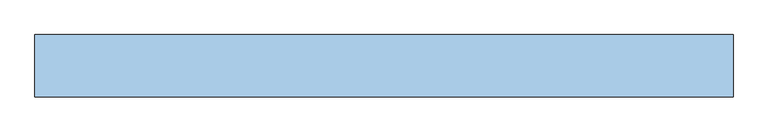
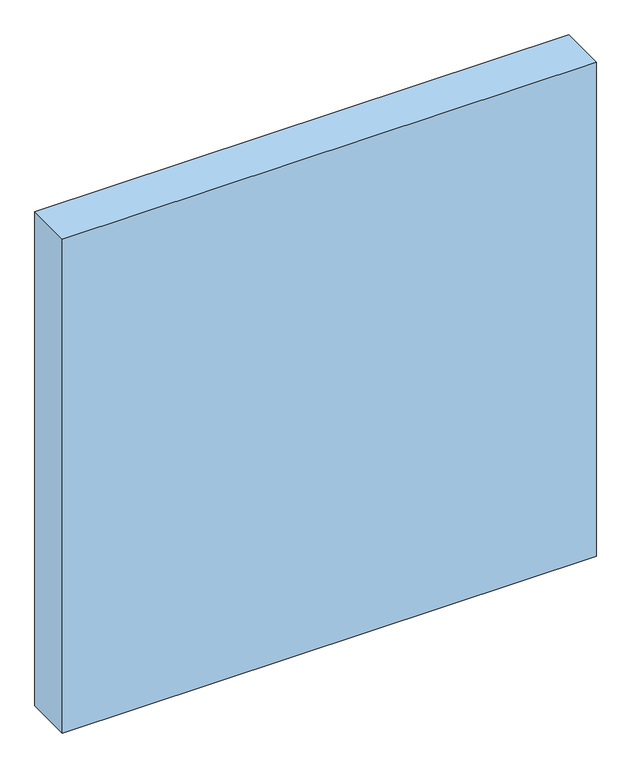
"""IFC4 building model written with IfcOpenShell, lengths in millimetres: window geometry, Dr_Проем-Четверти_об модель : ОК."""

from ifc_helpers import new_model, si_unit, frame, origin, place, context, project, spatial, polyline, outline, extrude, source, transform, mapped, element, save


def window_6c497e1b(model_context):
    return source(origin(), model_context, "Body", "SweptSolid", [
        extrude(outline(polyline([(1255.0, 100.0), (1255.0, -100.0), (-985.0, -100.0), (-985.0, 100.0), (1255.0, 100.0)])), frame((0.0, 0.0, -70.0), z_axis=(0.0, 0.0, 1.0), x_axis=(1.0, 0.0, 0.0)), (0.0, 0.0, 1.0), 2190.0),
    ])


if __name__ == "__main__":
    model = new_model("IFC4")
    model_context = context("Model", 3, world=origin())
    ifc_project = project(units=[si_unit("LENGTHUNIT", "METRE", prefix="MILLI")], contexts=[model_context])
    site = spatial("IfcSite", under=ifc_project)
    building = spatial("IfcBuilding", under=site)
    placement = place(None, origin())
    window_shape = window_6c497e1b(model_context)
    element("IfcWindow", 1, ObjectType="Dr_Проем-Четверти_об модель : ОК", at=placement, inside=building, context=model_context, shape_type="MappedRepresentation", body=[
        mapped(window_shape, transform((0.0, 0.0, 0.0), x_axis=(1.0, 0.0, 0.0), y_axis=(0.0, 1.0, 0.0), z_axis=(0.0, 0.0, 1.0))),
    ])
    save(model, "model.ifc")
